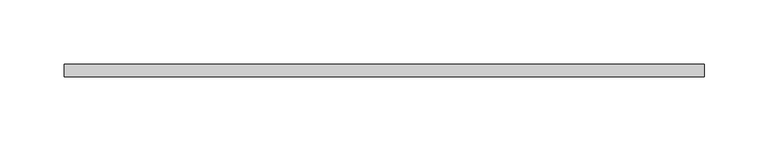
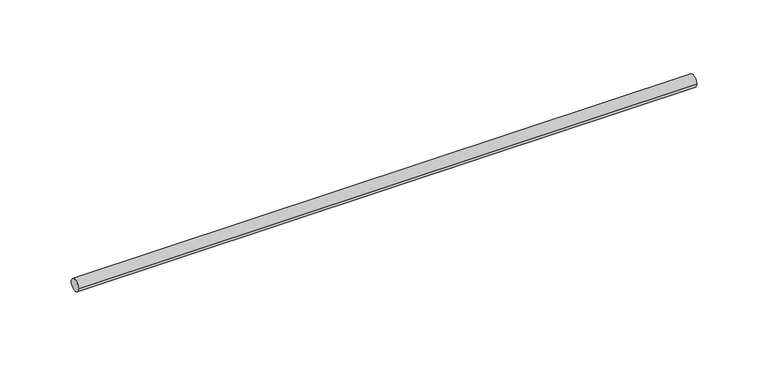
"""IFC4 building model written with IfcOpenShell, lengths in millimetres: valve geometry, Superfix Threaded Rod : Threaded Rod  Extra-  M10 x 100."""

from ifc_helpers import new_model, si_unit, point, frame, origin, origin_2d, place, context, project, spatial, circle_curve, trimmed, segment, composite_curve, outline, extrude, source, transform, mapped, element, save


def valve_8ff17196(model_context):
    return source(origin(), model_context, "Body", "SweptSolid", [
        extrude(outline(composite_curve([segment(trimmed(circle_curve(origin_2d(), 5.0), [point((-5.0, 0.0))], [point((5.0, 0.0))], False, "CARTESIAN"), True, "CONTINUOUS"), segment(trimmed(circle_curve(origin_2d(), 5.0), [point((5.0, 0.0))], [point((-5.0, 0.0))], False, "CARTESIAN"), True, "CONTINUOUS")], self_intersect=False)), frame((0.0, 0.0, 0.0), z_axis=(1.0, 0.0, 0.0), x_axis=(0.0, 1.0, 0.0)), (0.0, 0.0, 1.0), 500.0),
    ])


if __name__ == "__main__":
    model = new_model("IFC4")
    model_context = context("Model", 3, world=origin())
    ifc_project = project(units=[si_unit("LENGTHUNIT", "METRE", prefix="MILLI")], contexts=[model_context])
    site = spatial("IfcSite", under=ifc_project)
    building = spatial("IfcBuilding", under=site)
    placement = place(None, origin())
    valve_shape = valve_8ff17196(model_context)
    element("IfcValve", 1, ObjectType="Superfix Threaded Rod : Threaded Rod  Extra-  M10 x 100", at=placement, inside=building, context=model_context, shape_type="MappedRepresentation", body=[
        mapped(valve_shape, transform((0.0, 0.0, 0.0), x_axis=(1.0, 0.0, 0.0), y_axis=(0.0, 1.0, 0.0), z_axis=(0.0, 0.0, 1.0))),
    ])
    save(model, "model.ifc")
